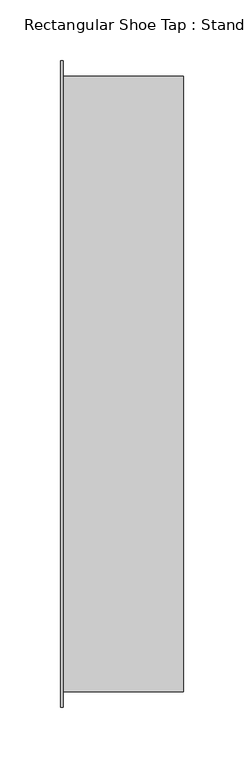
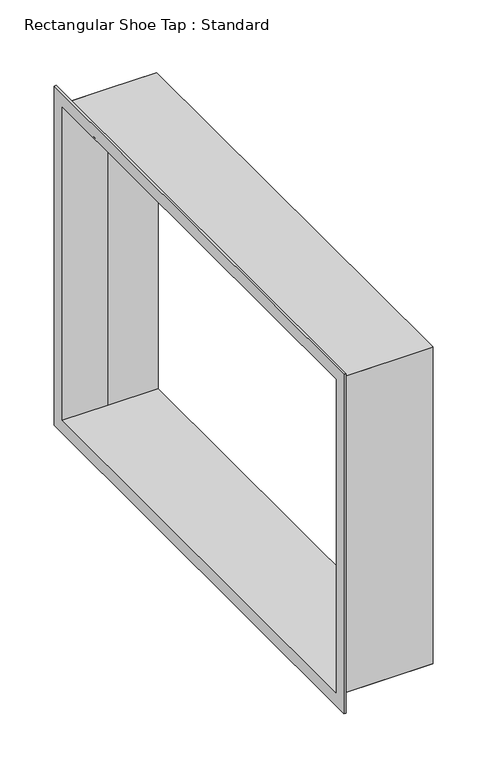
"""IFC4 building model written with IfcOpenShell, lengths in millimetres: duct fitting geometry, Rectangular Shoe Tap : Standard."""

from ifc_helpers import new_model, si_unit, origin, place, context, project, spatial, faceted_brep, source, transform, mapped, element, save


def rectangular_shoe_tap_standard_ce543e5a(model_context):
    return source(origin(), model_context, "Body", "Brep", [
        faceted_brep([(101.6, 254.0, 177.8), (99.6, 254.0, 177.8), (50.8, 254.0, 177.8), (2.0, 254.0, 177.8), (2.0, -254.0, 177.8), (99.6, -254.0, 177.8), (101.6, -254.0, 177.8), (101.6, -254.0, -177.8), (99.6, -254.0, -177.8), (2.0, -254.0, -177.8), (2.0, 254.0, -177.8), (50.8, 254.0, -177.8), (99.6, 254.0, -177.8), (101.6, 254.0, -177.8), (101.6, 252.0, 175.8), (101.6, 252.0, -175.8), (101.6, -252.0, -175.8), (101.6, -252.0, 175.8), (2.0, 266.7, 190.5), (2.0, -266.7, 190.5), (2.0, -266.7, -190.5), (2.0, 266.7, -190.5), (0.0, 266.7, 190.5), (0.0, 266.7, -190.5), (0.0, -266.7, -190.5), (0.0, -266.7, 190.5), (0.0, -252.0, 175.8), (0.0, -252.0, -175.8), (0.0, 252.0, -175.8), (0.0, 252.0, 175.8), (48.8, 252.0, 175.8), (48.8, 252.0, -175.8)], [[[0, 1, 2, 3, 4, 5, 6]], [[7, 8, 9, 10, 11, 12, 13]], [[2, 1, 0, 13, 12, 11]], [[6, 7, 13, 0], [14, 15, 16, 17]], [[6, 5, 4, 9, 8, 7]], [[18, 19, 20, 21], [3, 10, 9, 4]], [[22, 23, 24, 25], [26, 27, 28, 29]], [[21, 23, 22, 18]], [[20, 24, 23, 21]], [[19, 25, 24, 20]], [[18, 22, 25, 19]], [[14, 17, 26, 29, 30]], [[31, 28, 27, 16, 15]], [[30, 31, 15, 14]], [[16, 27, 26, 17]], [[11, 10, 3, 2]], [[30, 29, 28, 31]]]),
        faceted_brep([(101.6, 252.0, 175.8), (101.6, -252.0, 175.8), (0.0, -252.0, 175.8), (0.0, 252.0, 175.8), (48.8, 252.0, 175.8), (48.8, 252.0, -175.8), (0.0, 252.0, -175.8), (0.0, -252.0, -175.8), (101.6, -252.0, -175.8), (101.6, 252.0, -175.8), (0.0, -254.0, 177.8), (50.0, -254.0, 177.8), (101.6, -254.0, 177.8), (101.6, 254.0, 177.8), (50.8, 254.0, 177.8), (0.0, 254.0, 177.8), (0.0, 254.0, -177.8), (50.8, 254.0, -177.8), (101.6, 254.0, -177.8), (101.6, -254.0, -177.8), (50.0, -254.0, -177.8), (0.0, -254.0, -177.8)], [[[0, 1, 2, 3, 4]], [[5, 6, 7, 8, 9]], [[4, 5, 9, 0]], [[1, 8, 7, 2]], [[10, 11, 12, 13, 14, 15]], [[16, 17, 18, 19, 20, 21]], [[10, 15, 16, 21], [3, 2, 7, 6]], [[19, 18, 13, 12], [0, 9, 8, 1]], [[11, 20, 19, 12]], [[10, 21, 20, 11]], [[4, 3, 6, 5]], [[13, 18, 17, 14]], [[14, 17, 16, 15]]]),
    ])


if __name__ == "__main__":
    model = new_model("IFC4")
    model_context = context("Model", 3, world=origin())
    ifc_project = project(units=[si_unit("LENGTHUNIT", "METRE", prefix="MILLI")], contexts=[model_context])
    site = spatial("IfcSite", under=ifc_project)
    building = spatial("IfcBuilding", under=site)
    placement = place(None, origin())
    rectangular_shoe_tap_standard_shape = rectangular_shoe_tap_standard_ce543e5a(model_context)
    element("IfcDuctFitting", 1, ObjectType="Rectangular Shoe Tap : Standard", at=placement, inside=building, context=model_context, shape_type="MappedRepresentation", body=[
        mapped(rectangular_shoe_tap_standard_shape, transform((0.0, 0.0, 0.0), x_axis=(1.0, 0.0, 0.0), y_axis=(0.0, 1.0, 0.0), z_axis=(0.0, 0.0, 1.0))),
    ])
    save(model, "model.ifc")
